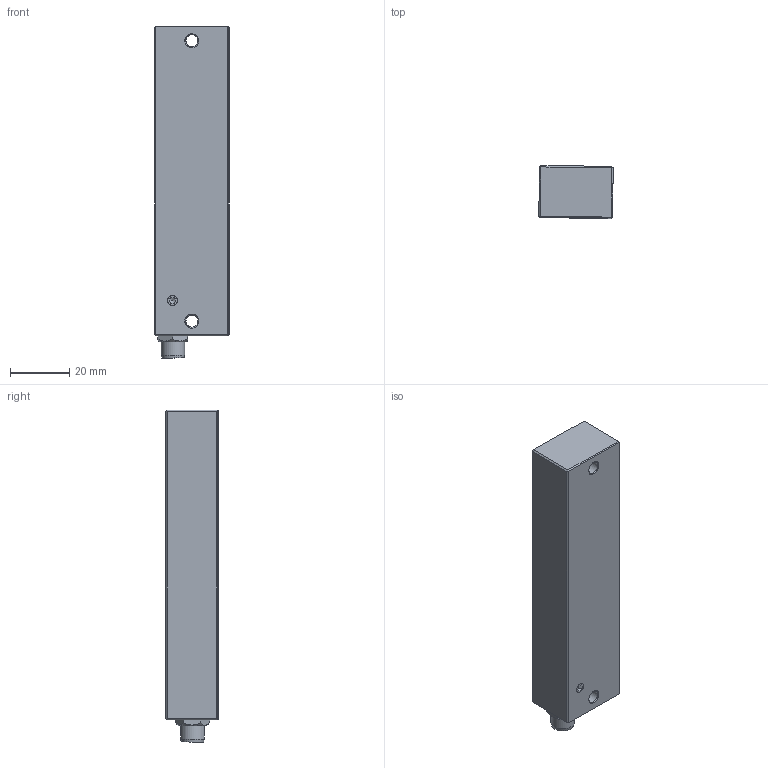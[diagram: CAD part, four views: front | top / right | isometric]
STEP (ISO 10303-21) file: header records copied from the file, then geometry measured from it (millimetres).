
FILE_DESCRIPTION(/* description */ (''),/* implementation_level */ '2;1');
FILE_NAME(/* name */ 'G:\Daten\Leuchten\01000 - LED KL\03 - CAD\Kompaktleuchte 105\led-aufbauleuchte-kl-105.stp',/* time_stamp */ '2023-05-10T14:36:49+02:00',/* author */ ('gzahn'),/* organization */ (''),/* preprocessor_version */ 'ST-DEVELOPER v19',/* originating_system */ 'Autodesk Inventor 2023',/* authorisation */ '');
FILE_SCHEMA (('AUTOMOTIVE_DESIGN { 1 0 10303 214 3 1 1 }'));
Length unit declared in the file: millimetre
Products named in the file (1): led-aufbauleuchte-kl-105
Bounding box: 25.21 x 17.81 x 112.5 mm (x, y, z)
Volume: 35650.3 mm3; surface area: 16965.8 mm2
Topology: 1 solids, 1 shells, 115 faces, 284 edges, 181 vertices
Faces by surface type: plane 67, cylinder 28, cone 16, bspline 4
Full cylindrical faces by diameter (mm): 1 x4, 3.242 x1, 4.2 x2, 5.8 x1, 6.917 x1, 7.4 x2, 8 x1
Entity records: 3721 total; most frequent: CARTESIAN_POINT 740, DIRECTION 579, ORIENTED_EDGE 560, EDGE_CURVE 280, AXIS2_PLACEMENT_3D 198, LINE 183, VECTOR 183, VERTEX_POINT 181
